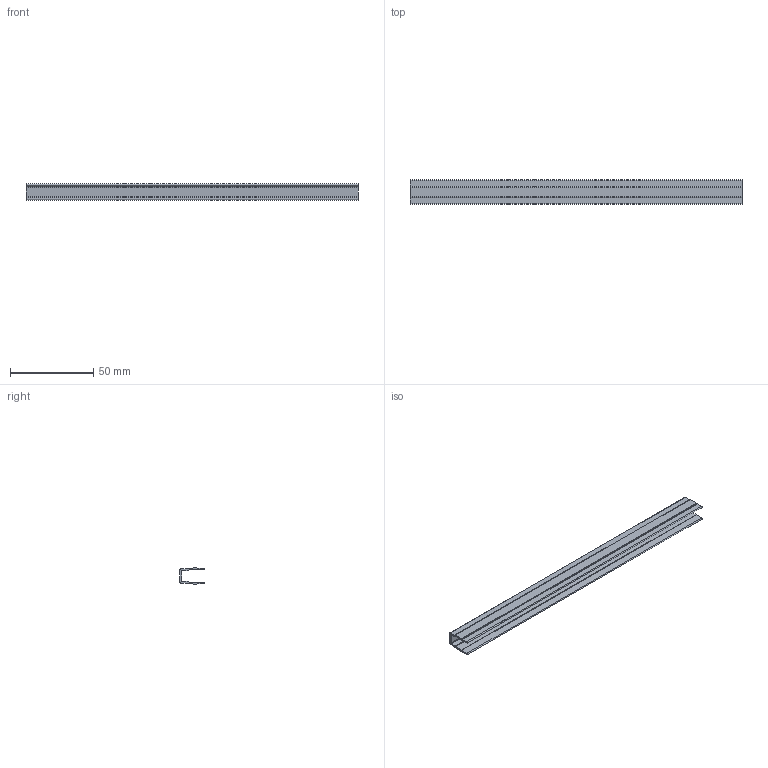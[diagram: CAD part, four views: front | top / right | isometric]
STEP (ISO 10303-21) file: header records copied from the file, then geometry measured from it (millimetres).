
FILE_DESCRIPTION (( 'STEP AP214' ), '1' );
FILE_NAME ('1.6007 Peitelista 45 vaaleanharmaa.STEP', '2024-03-14T08:28:00', ( '' ), ( '' ), 'SwSTEP 2.0', 'SolidWorks 2024', '' );
FILE_SCHEMA (( 'AUTOMOTIVE_DESIGN' ));
Length unit declared in the file: millimetre
Products named in the file (1): 1.6007 Peitelista 45 vaaleanharmaa
Bounding box: 200 x 15 x 9.79 mm (x, y, z)
Volume: 7800.9 mm3; surface area: 14699.8 mm2
Topology: 1 solids, 1 shells, 49 faces, 141 edges, 94 vertices
Faces by surface type: cylinder 27, plane 22
Entity records: 2191 total; most frequent: DIRECTION 295, CARTESIAN_POINT 285, ORIENTED_EDGE 282, EDGE_CURVE 141, AXIS2_PLACEMENT_3D 104, VERTEX_POINT 94, LINE 87, VECTOR 87
